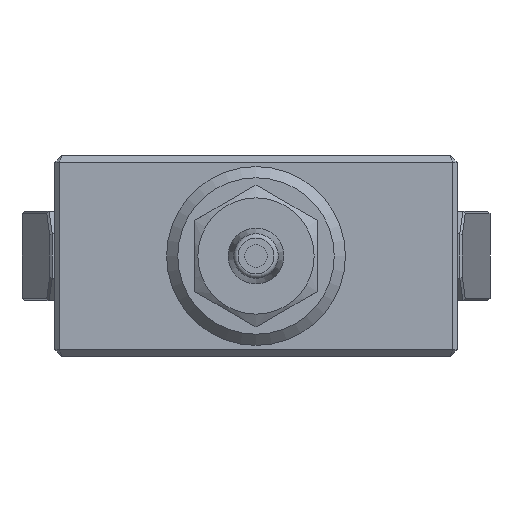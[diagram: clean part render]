
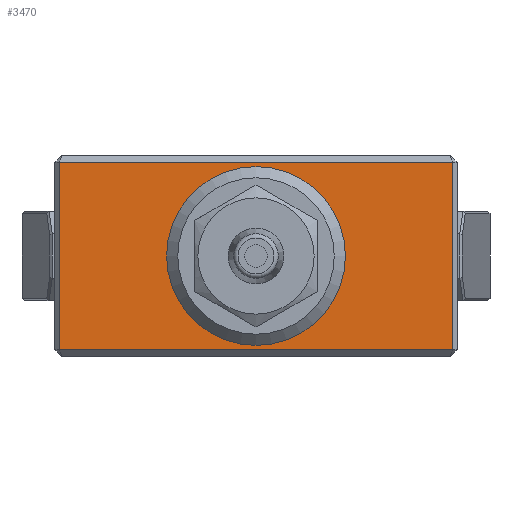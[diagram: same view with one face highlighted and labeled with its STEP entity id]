
A CAD part, front view. The second image highlights one B-rep face of the part: STEP entity #3470.
In plain terms, the highlighted planar face has unit normal (0, -1, 0).
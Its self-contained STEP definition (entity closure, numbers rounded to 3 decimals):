
#3162=FACE_BOUND('',#4658,.T.);
#3163=FACE_BOUND('',#4659,.T.);
#3324=CIRCLE('',#11207,4.);
#3470=ADVANCED_FACE('',(#3162,#3163),#3879,.T.);
#3879=PLANE('',#11257);
#4658=EDGE_LOOP('',(#7256,#7257,#7258,#7259));
#4659=EDGE_LOOP('',(#7260));
#5129=LINE('',#14093,#6075);
#5179=LINE('',#14272,#6125);
#5191=LINE('',#14296,#6137);
#5196=LINE('',#14306,#6142);
#6075=VECTOR('',#11932,1.);
#6125=VECTOR('',#12044,1.);
#6137=VECTOR('',#12062,1.);
#6142=VECTOR('',#12071,1.);
#7256=ORIENTED_EDGE('',*,*,#10165,.T.);
#7257=ORIENTED_EDGE('',*,*,#10170,.T.);
#7258=ORIENTED_EDGE('',*,*,#10153,.T.);
#7259=ORIENTED_EDGE('',*,*,#10081,.T.);
#7260=ORIENTED_EDGE('',*,*,#10063,.F.);
#9309=VERTEX_POINT('',#14048);
#9322=VERTEX_POINT('',#14094);
#9323=VERTEX_POINT('',#14095);
#9374=VERTEX_POINT('',#14273);
#9382=VERTEX_POINT('',#14295);
#10063=EDGE_CURVE('',#9309,#9309,#3324,.T.);
#10081=EDGE_CURVE('',#9322,#9323,#5129,.T.);
#10153=EDGE_CURVE('',#9374,#9322,#5179,.T.);
#10165=EDGE_CURVE('',#9323,#9382,#5191,.T.);
#10170=EDGE_CURVE('',#9382,#9374,#5196,.T.);
#11207=AXIS2_PLACEMENT_3D('',#14047,#11893,#11894);
#11257=AXIS2_PLACEMENT_3D('',#14307,#12072,#12073);
#11893=DIRECTION('',(0.,-1.,0.));
#11894=DIRECTION('',(1.,0.,0.));
#11932=DIRECTION('',(0.,0.,1.));
#12044=DIRECTION('',(1.,0.,0.));
#12062=DIRECTION('',(-1.,0.,0.));
#12071=DIRECTION('',(0.,0.,-1.));
#12072=DIRECTION('',(0.,-1.,0.));
#12073=DIRECTION('',(0.,0.,1.));
#14047=CARTESIAN_POINT('',(0.,-10.25,95.5));
#14048=CARTESIAN_POINT('',(4.,-10.25,95.5));
#14093=CARTESIAN_POINT('',(8.8,-10.25,100.));
#14094=CARTESIAN_POINT('',(8.8,-10.25,91.3));
#14095=CARTESIAN_POINT('',(8.8,-10.25,99.7));
#14272=CARTESIAN_POINT('',(9.,-10.25,91.3));
#14273=CARTESIAN_POINT('',(-8.8,-10.25,91.3));
#14295=CARTESIAN_POINT('',(-8.8,-10.25,99.7));
#14296=CARTESIAN_POINT('',(-8.8,-10.25,99.7));
#14306=CARTESIAN_POINT('',(-8.8,-10.25,100.));
#14307=CARTESIAN_POINT('',(9.,-10.25,100.));
